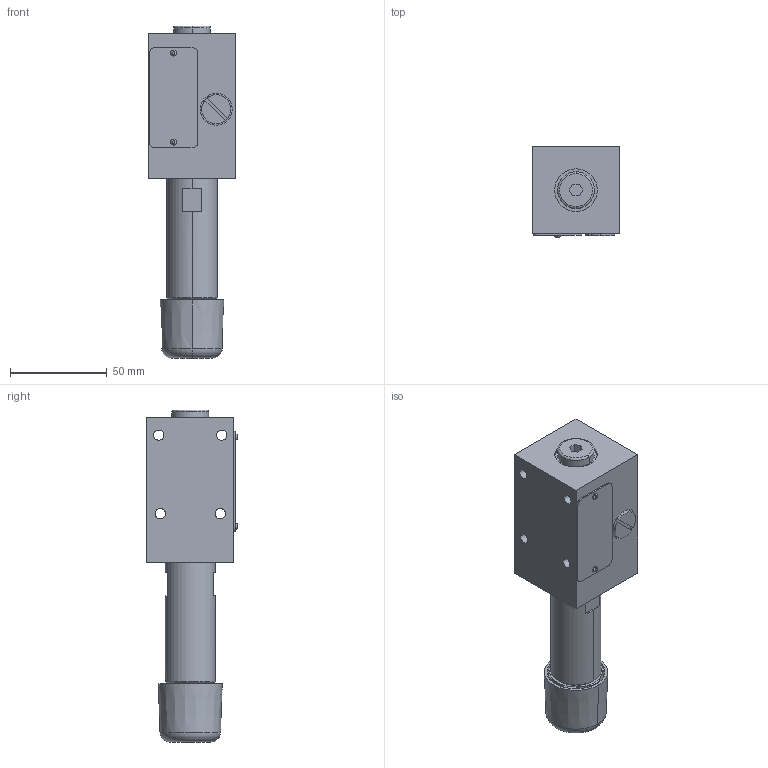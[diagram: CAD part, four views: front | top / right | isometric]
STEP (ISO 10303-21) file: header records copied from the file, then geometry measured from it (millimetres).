
FILE_DESCRIPTION((''),'2;1');
FILE_NAME('VRN2_06_MA','2011-03-14T',('tvatras'),(''),'PRO/ENGINEER BY PARAMETRIC TECHNOLOGY CORPORATION, 2010180','PRO/ENGINEER BY PARAMETRIC TECHNOLOGY CORPORATION, 2010180','');
FILE_SCHEMA(('CONFIG_CONTROL_DESIGN'));
Length unit declared in the file: millimetre
Products named in the file (1): VRN2_06_MA
Bounding box: 45 x 46.8 x 171.5 mm (x, y, z)
Surface area: 34473.6 mm2 (no closed solid volume)
Topology: 0 solids, 4 shells, 149 faces, 391 edges, 257 vertices
Faces by surface type: plane 63, cylinder 46, cone 28, torus 8, bspline 4
Entity records: 5091 total; most frequent: CARTESIAN_POINT 1353, DIRECTION 797, ORIENTED_EDGE 728, EDGE_CURVE 388, AXIS2_PLACEMENT_3D 319, VERTEX_POINT 255, EDGE_LOOP 177, CIRCLE 172
